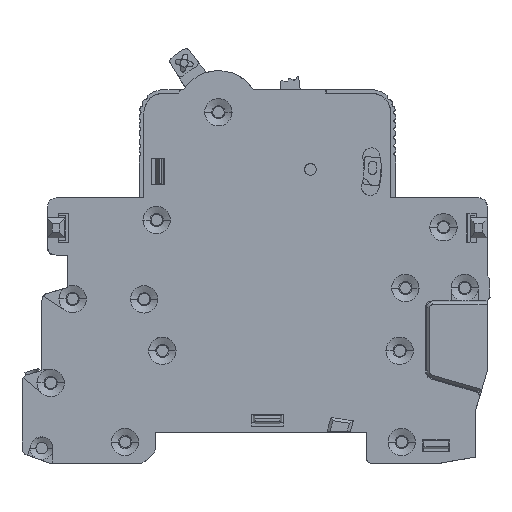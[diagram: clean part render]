
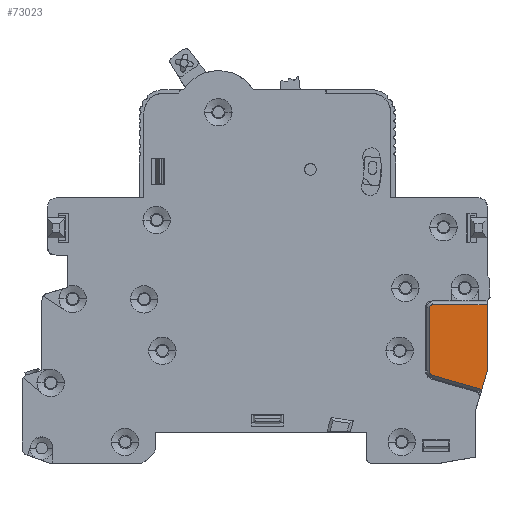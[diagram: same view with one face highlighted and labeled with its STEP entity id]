
A CAD part, top view. The second image highlights one B-rep face of the part: STEP entity #73023.
In plain terms, the highlighted planar face has unit normal (0, 0, 1).
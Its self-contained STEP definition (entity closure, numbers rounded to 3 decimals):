
#45005=DIRECTION('',(-1.,0.,0.));
#45006=VECTOR('',#45005,9.65);
#45007=CARTESIAN_POINT('',(102.308,29.339,1.1));
#45008=LINE('',#45007,#45006);
#45009=DIRECTION('',(0.,1.,0.));
#45010=VECTOR('',#45009,11.653);
#45011=CARTESIAN_POINT('',(102.308,17.687,1.1));
#45012=LINE('',#45011,#45010);
#45013=DIRECTION('',(0.283,0.959,0.));
#45014=VECTOR('',#45013,3.322);
#45015=CARTESIAN_POINT('',(101.369,14.5,1.1));
#45016=LINE('',#45015,#45014);
#45017=DIRECTION('',(0.961,-0.276,0.));
#45018=VECTOR('',#45017,8.982);
#45019=CARTESIAN_POINT('',(92.737,16.981,1.1));
#45020=LINE('',#45019,#45018);
#45021=CARTESIAN_POINT('',(92.958,17.75,1.1));
#45022=DIRECTION('',(0.,0.,1.));
#45023=DIRECTION('',(-1.,0.,0.));
#45024=AXIS2_PLACEMENT_3D('',#45021,#45022,#45023);
#45026=DIRECTION('',(0.,-1.,0.));
#45027=VECTOR('',#45026,11.089);
#45028=CARTESIAN_POINT('',(92.158,28.839,1.1));
#45029=LINE('',#45028,#45027);
#45030=CARTESIAN_POINT('',(92.658,28.839,1.1));
#45031=DIRECTION('',(0.,0.,1.));
#45032=DIRECTION('',(0.,1.,0.));
#45033=AXIS2_PLACEMENT_3D('',#45030,#45031,#45032);
#49208=CARTESIAN_POINT('',(92.158,17.75,1.1));
#49210=VERTEX_POINT('',#49208);
#49212=CARTESIAN_POINT('',(92.158,28.839,1.1));
#49213=VERTEX_POINT('',#49212);
#49216=CARTESIAN_POINT('',(92.737,16.981,1.1));
#49218=VERTEX_POINT('',#49216);
#49220=CARTESIAN_POINT('',(92.658,29.339,1.1));
#49221=VERTEX_POINT('',#49220);
#49224=CARTESIAN_POINT('',(102.308,29.339,1.1));
#49225=VERTEX_POINT('',#49224);
#49233=CARTESIAN_POINT('',(101.369,14.5,1.1));
#49235=VERTEX_POINT('',#49233);
#49236=CARTESIAN_POINT('',(102.308,17.687,1.1));
#49237=VERTEX_POINT('',#49236);
#73009=CARTESIAN_POINT('',(63.641,-54.231,1.1));
#73010=DIRECTION('',(0.,0.,1.));
#73011=DIRECTION('',(1.,0.,0.));
#73012=AXIS2_PLACEMENT_3D('',#73009,#73010,#73011);
#73013=PLANE('',#73012);
#73014=ORIENTED_EDGE('',*,*,#72925,.F.);
#73015=ORIENTED_EDGE('',*,*,#72910,.F.);
#73016=ORIENTED_EDGE('',*,*,#54542,.F.);
#73017=ORIENTED_EDGE('',*,*,#72984,.F.);
#73018=ORIENTED_EDGE('',*,*,#72970,.F.);
#73019=ORIENTED_EDGE('',*,*,#72955,.F.);
#73020=ORIENTED_EDGE('',*,*,#72940,.F.);
#73021=EDGE_LOOP('',(#73014,#73015,#73016,#73017,#73018,#73019,#73020));
#73022=FACE_OUTER_BOUND('',#73021,.F.);
#73023=ADVANCED_FACE('',(#73022),#73013,.T.);
#45025=CIRCLE('',#45024,0.8);
#45034=CIRCLE('',#45033,0.5);
#54542=EDGE_CURVE('',#49235,#49237,#45016,.T.);
#72910=EDGE_CURVE('',#49237,#49225,#45012,.T.);
#72925=EDGE_CURVE('',#49225,#49221,#45008,.T.);
#72940=EDGE_CURVE('',#49221,#49213,#45034,.T.);
#72955=EDGE_CURVE('',#49213,#49210,#45029,.T.);
#72970=EDGE_CURVE('',#49210,#49218,#45025,.T.);
#72984=EDGE_CURVE('',#49218,#49235,#45020,.T.);
